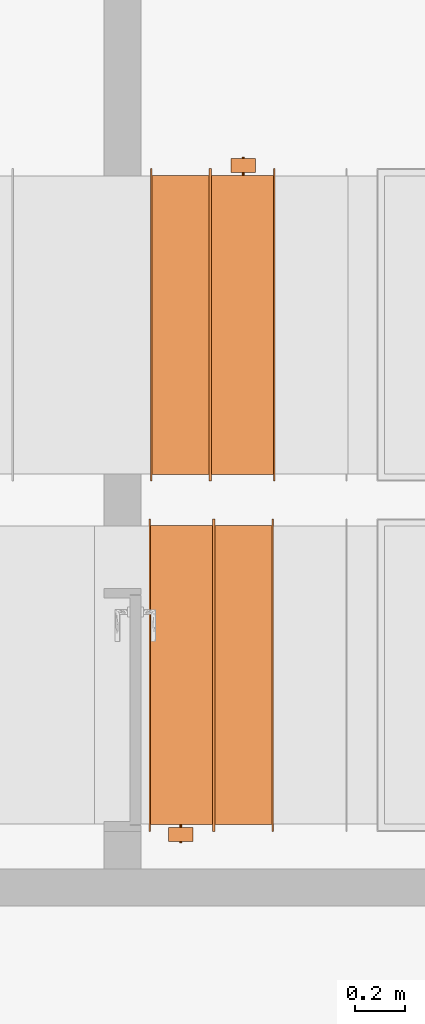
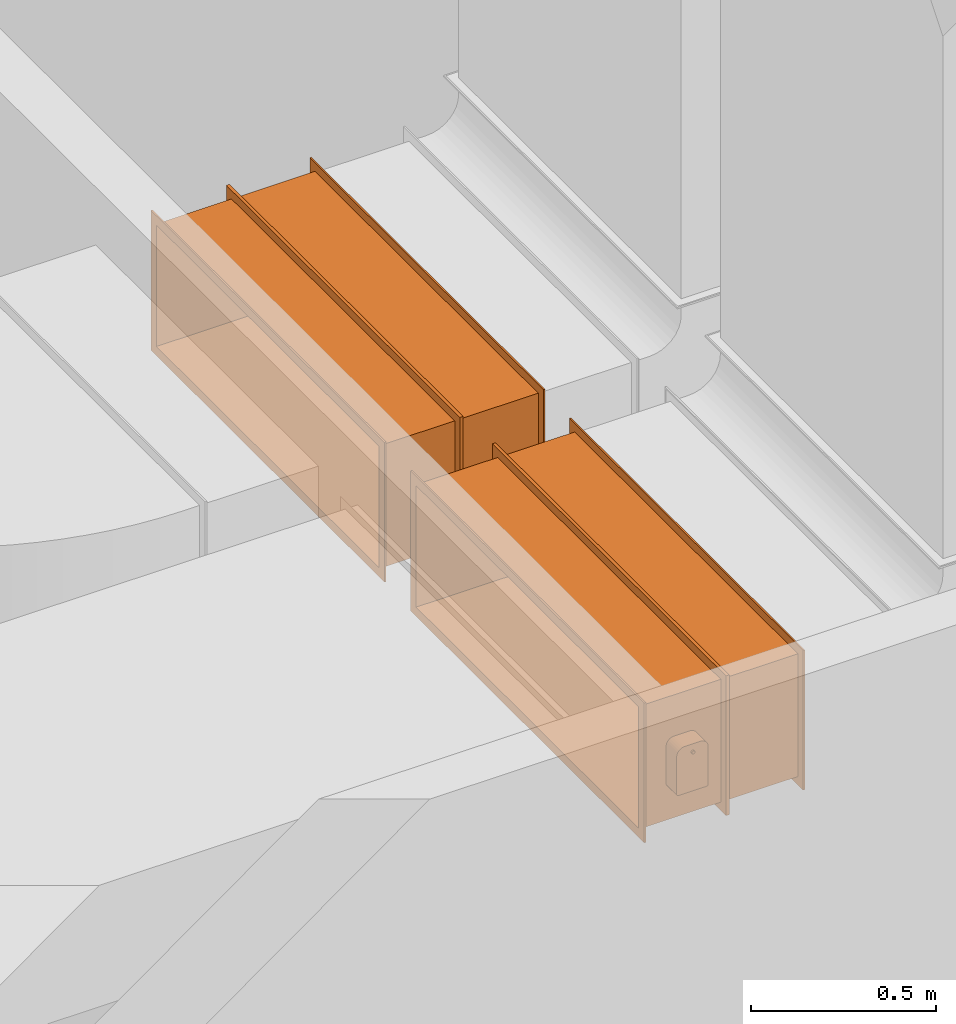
# One storey, part 290 of 302: 2 proxies.
"""IFC2X3 building model written with IfcOpenShell, lengths in metres."""

import ifcopenshell
import ifcopenshell.guid

model = None  # the IFC model being written
_history = None  # IfcOwnerHistory: only IFC2X3 demands one
_inside = {}  # id of a spatial element -> (the spatial element, [elements in it])
_under = {}  # id of a project, library or spatial element -> (it, [spatial elements below it])
_declared = {}  # id of a project -> (the project, [libraries it declares])
_typed = {}  # id of a type object -> (the type object, [elements of that type])
_made_of = {}  # id of a material, layer set ... -> (it, [elements and type objects made of it])


def new_model(schema):
    """Start an empty IFC model of exactly this schema.

    Asked for "IFC4X3", IfcOpenShell would pick the latest addendum, in which some entities
    have other attributes; the version numbers below select the first issue.
    IFC2X3 requires an IfcOwnerHistory on every rooted entity: one is made here for all.
    """
    global model, _history
    if schema == "IFC4X3":
        model = ifcopenshell.file(schema_version=(4, 3, 0, 0))
    else:
        model = ifcopenshell.file(schema=schema)
    _inside.clear()
    _under.clear()
    _declared.clear()
    _typed.clear()
    _made_of.clear()
    _history = None
    if model.schema == "IFC2X3":
        org = make("IfcOrganization", Name="unknown")
        user = make(
            "IfcPersonAndOrganization",
            ThePerson=make("IfcPerson", FamilyName="unknown"),
            TheOrganization=org,
        )
        app = make(
            "IfcApplication",
            ApplicationDeveloper=org,
            Version="unknown",
            ApplicationFullName="unknown",
            ApplicationIdentifier="unknown",
        )
        _history = make(
            "IfcOwnerHistory",
            OwningUser=user,
            OwningApplication=app,
            ChangeAction="ADDED",
            CreationDate=0,
        )
    return model


def make(cls, **values):
    """One entity of the class cls with the attributes given. An attribute that is None is left unset."""
    return model.create_entity(
        cls, **{name: value for name, value in values.items() if value is not None}
    )


def entity(cls, *values):
    """Any entity or typed value of the class cls, its attributes in the order of the schema. None: left unset."""
    e = model.create_entity(cls)
    for i, value in enumerate(values):
        if value is not None:
            e[i] = value
    return e


def rooted(cls, **values):
    """An entity with a GlobalId (a new one), such as an element, a storey or a relation."""
    return make(cls, GlobalId=ifcopenshell.guid.new(), OwnerHistory=_history, **values)


def si_unit(unit_type, name, prefix=None):
    """IfcSIUnit, for example si_unit("LENGTHUNIT", "METRE", prefix="MILLI")."""
    return make("IfcSIUnit", UnitType=unit_type, Prefix=prefix, Name=name)


def converted_unit(unit_type, name, factor, base, dimensions=None, offset=None):
    """IfcConversionBasedUnit, such as the inch: factor (a typed value) times the base unit."""
    return make(
        "IfcConversionBasedUnit"
        if offset is None
        else "IfcConversionBasedUnitWithOffset",
        ConversionOffset=offset,
        Dimensions=None
        if dimensions is None
        else entity("IfcDimensionalExponents", *dimensions),
        UnitType=unit_type,
        Name=name,
        ConversionFactor=make(
            "IfcMeasureWithUnit", ValueComponent=factor, UnitComponent=base
        ),
    )


def derived_unit(unit_type, elements):
    """IfcDerivedUnit: a product of units, each with its exponent."""
    return make(
        "IfcDerivedUnit",
        Elements=[
            make("IfcDerivedUnitElement", Unit=unit, Exponent=power)
            for unit, power in elements
        ],
        UnitType=unit_type,
    )


def assignment(units):
    """IfcUnitAssignment: the units of a project."""
    return None if units is None else make("IfcUnitAssignment", Units=units)


def point(xyz):
    """IfcCartesianPoint."""
    return None if xyz is None else make("IfcCartesianPoint", Coordinates=xyz)


def direction(xyz):
    """IfcDirection."""
    return None if xyz is None else make("IfcDirection", DirectionRatios=xyz)


def frame(location, z_axis=None, x_axis=None):
    """IfcAxis2Placement3D, a coordinate frame: its origin and axes. An axis left out is left unset."""
    return make(
        "IfcAxis2Placement3D",
        Location=point(location),
        Axis=direction(z_axis),
        RefDirection=direction(x_axis),
    )


def origin():
    """The frame at (0, 0, 0) with its axes left unset."""
    return frame((0.0, 0.0, 0.0))


def place(relative_to, where):
    """IfcLocalPlacement: puts the frame where relative to a parent placement (None: the world)."""
    return make(
        "IfcLocalPlacement", PlacementRelTo=relative_to, RelativePlacement=where
    )


def context(
    kind, dimensions, precision=None, world=None, true_north=None, identifier=None
):
    """IfcGeometricRepresentationContext, for example the 3D "Model" context."""
    return make(
        "IfcGeometricRepresentationContext",
        ContextIdentifier=identifier,
        ContextType=kind,
        CoordinateSpaceDimension=dimensions,
        Precision=precision,
        WorldCoordinateSystem=world,
        TrueNorth=true_north,
    )


def subcontext(parent, identifier, kind, view, scale=None):
    """IfcGeometricRepresentationSubContext, for example "Body" below "Model"."""
    return make(
        "IfcGeometricRepresentationSubContext",
        ContextIdentifier=identifier,
        ContextType=kind,
        ParentContext=parent,
        TargetScale=scale,
        TargetView=view,
    )


def project(units=None, contexts=None):
    """IfcProject with its units and contexts."""
    return rooted(
        "IfcProject",
        Name="project",
        RepresentationContexts=contexts,
        UnitsInContext=assignment(units),
    )


def spatial(cls, under=None, at=None, **own):
    """A site, building, storey or space (cls), placed at a placement, below another one or the project."""
    s = rooted(cls, ObjectPlacement=at, **own)
    if under is not None:
        _under.setdefault(under.id(), (under, []))[1].append(s)
    return s


def faces_of(points, faces, orient=None, outer=None):
    """IfcFace entities. A face is a list of loops; a loop is a list of indices into points, from 0.

    orient and outer hold one flag for each loop. By default every Orientation is true, the
    first loop of a face is its IfcFaceOuterBound and the others are IfcFaceBound.
    """
    made = []
    for i, loops in enumerate(faces):
        bounds = []
        for j, loop in enumerate(loops):
            is_outer = j == 0 if outer is None else outer[i][j]
            bounds.append(
                make(
                    "IfcFaceOuterBound" if is_outer else "IfcFaceBound",
                    Bound=make("IfcPolyLoop", Polygon=[points[k] for k in loop]),
                    Orientation=True if orient is None else orient[i][j],
                )
            )
        made.append(make("IfcFace", Bounds=bounds))
    return made


def faceted_brep(points, faces, orient=None, outer=None, voids=None):
    """IfcFacetedBrep: a solid bounded by flat faces; with voids (closed shells), ...WithVoids."""
    shared = [point(p) for p in points]
    hull = make("IfcClosedShell", CfsFaces=faces_of(shared, faces, orient, outer))
    if voids is None:
        return make("IfcFacetedBrep", Outer=hull)
    return make(
        "IfcFacetedBrepWithVoids",
        Outer=hull,
        Voids=[
            make(cls, CfsFaces=faces_of(shared, fs, o, b)) for cls, fs, o, b in voids
        ],
    )


def shape(context_of_items, identifier, shape_type, items):
    """IfcShapeRepresentation: the items that make up one representation, for example the "Body"."""
    return make(
        "IfcShapeRepresentation",
        ContextOfItems=context_of_items,
        RepresentationIdentifier=identifier,
        RepresentationType=shape_type,
        Items=items,
    )


def source(mapping_origin, context_of_items, identifier, shape_type, items):
    """IfcRepresentationMap: a shape defined once, which mapped items show again and again."""
    return make(
        "IfcRepresentationMap",
        MappingOrigin=mapping_origin,
        MappedRepresentation=shape(context_of_items, identifier, shape_type, items),
    )


def transform(
    local_origin,
    x_axis=None,
    y_axis=None,
    z_axis=None,
    scale=None,
    scale2=None,
    scale3=None,
    uniform=True,
):
    """IfcCartesianTransformationOperator3D, or its non-uniform kind. x_axis, y_axis, z_axis: its Axis1, 2, 3."""
    if uniform:
        return make(
            "IfcCartesianTransformationOperator3D",
            Axis1=direction(x_axis),
            Axis2=direction(y_axis),
            LocalOrigin=point(local_origin),
            Scale=scale,
            Axis3=direction(z_axis),
        )
    return make(
        "IfcCartesianTransformationOperator3DnonUniform",
        Axis1=direction(x_axis),
        Axis2=direction(y_axis),
        LocalOrigin=point(local_origin),
        Scale=scale,
        Axis3=direction(z_axis),
        Scale2=scale2,
        Scale3=scale3,
    )


def mapped(mapping_source, mapping_target):
    """IfcMappedItem: shows the shape of a source again, moved by a transform."""
    return make(
        "IfcMappedItem", MappingSource=mapping_source, MappingTarget=mapping_target
    )


def material(Name=None, Category=None):
    """IfcMaterial."""
    return make("IfcMaterial", Name=Name, Category=Category)


def made_of(thing, what):
    """Note that an element or type object is made of a material, layer set ...; save() writes the relation."""
    if what is not None:
        _made_of.setdefault(what.id(), (what, []))[1].append(thing)
    return thing


def type_object(cls, material=None, **own):
    """A type object (cls), such as IfcWallType, which elements share."""
    return made_of(rooted(cls, **own), material)


def type_shapes(of_type, sources):
    """Give a type object the sources (RepresentationMaps) that its elements show as mapped items."""
    of_type.RepresentationMaps = sources


def element(
    cls,
    number,
    at=None,
    inside=None,
    cuts=None,
    type_object=None,
    material=None,
    context=None,
    identifier="Body",
    shape_type=None,
    held_by="IfcProductDefinitionShape",
    body=None,
    shapes=None,
    **own,
):
    """One element of the class cls, such as IfcWall. Its Tag is "e" and its number.

    at: its placement. inside: the storey or other place that contains it. cuts: it is an
    opening in that element (IfcRelVoidsElement). A single representation is given by context,
    identifier, shape_type and body (its items); several are given by shapes. held_by: the class
    of the entity that holds the representations. save() writes the other relations.
    """
    e = rooted(cls, Tag="e%d" % number, ObjectPlacement=at, **own)
    if body is not None:
        shapes = [shape(context, identifier, shape_type, body)]
    if shapes is not None:
        e.Representation = make(held_by, Representations=shapes)
    if inside is not None:
        _inside.setdefault(inside.id(), (inside, []))[1].append(e)
    if cuts is not None:
        rooted(
            "IfcRelVoidsElement", RelatingBuildingElement=cuts, RelatedOpeningElement=e
        )
    if type_object is not None:
        _typed.setdefault(type_object.id(), (type_object, []))[1].append(e)
    return made_of(e, material)


def aggregate(whole, parts):
    """IfcRelAggregates: a whole, such as a stair, and the parts it consists of."""
    return rooted("IfcRelAggregates", RelatingObject=whole, RelatedObjects=parts)


def save(model, path):
    """Write the relations noted so far, then the file.

    IfcRelAggregates (storeys below a building ...), IfcRelContainedInSpatialStructure (elements
    in a storey), IfcRelDefinesByType, IfcRelAssociatesMaterial and IfcRelDeclares: one each for
    every whole, place, type object, material and project.
    """
    for whole, parts in _under.values():
        aggregate(whole, parts)
    for where, things in _inside.values():
        rooted(
            "IfcRelContainedInSpatialStructure",
            RelatedElements=things,
            RelatingStructure=where,
        )
    for kind, things in _typed.values():
        rooted("IfcRelDefinesByType", RelatedObjects=things, RelatingType=kind)
    for what, things in _made_of.values():
        rooted("IfcRelAssociatesMaterial", RelatedObjects=things, RelatingMaterial=what)
    for by, libraries in _declared.values():
        rooted("IfcRelDeclares", RelatingContext=by, RelatedDefinitions=libraries)
    model.write(path)


model = new_model("IFC2X3")

# Units and contexts
model_context = context("Model", 3, precision=1e-05, world=origin(), true_north=direction((6.12303176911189e-17, 1.0)))
body_context = subcontext(model_context, "Body", "Model", "MODEL_VIEW")
ifc_project = project(units=[si_unit("LENGTHUNIT", "METRE"), si_unit("AREAUNIT", "SQUARE_METRE"), si_unit("VOLUMEUNIT", "CUBIC_METRE"), converted_unit("PLANEANGLEUNIT", "DEGREE", entity("IfcRatioMeasure", 0.0174532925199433), si_unit("PLANEANGLEUNIT", "RADIAN"), dimensions=[0, 0, 0, 0, 0, 0, 0]), si_unit("MASSUNIT", "GRAM", prefix="KILO"), derived_unit("MASSDENSITYUNIT", [(si_unit("MASSUNIT", "GRAM", prefix="KILO"), 1), (si_unit("LENGTHUNIT", "METRE"), -3)]), derived_unit("MOMENTOFINERTIAUNIT", [(si_unit("LENGTHUNIT", "METRE"), 4)]), si_unit("TIMEUNIT", "SECOND"), si_unit("FREQUENCYUNIT", "HERTZ"), si_unit("THERMODYNAMICTEMPERATUREUNIT", "DEGREE_CELSIUS"), derived_unit("THERMALTRANSMITTANCEUNIT", [(si_unit("MASSUNIT", "GRAM", prefix="KILO"), 1), (si_unit("THERMODYNAMICTEMPERATUREUNIT", "KELVIN"), -1), (si_unit("TIMEUNIT", "SECOND"), -3)]), derived_unit("VOLUMETRICFLOWRATEUNIT", [(si_unit("LENGTHUNIT", "METRE"), 3), (si_unit("TIMEUNIT", "SECOND"), -1)]), si_unit("ELECTRICCURRENTUNIT", "AMPERE"), si_unit("ELECTRICVOLTAGEUNIT", "VOLT"), si_unit("POWERUNIT", "WATT"), si_unit("FORCEUNIT", "NEWTON", prefix="KILO"), si_unit("ILLUMINANCEUNIT", "LUX"), si_unit("LUMINOUSFLUXUNIT", "LUMEN"), si_unit("LUMINOUSINTENSITYUNIT", "CANDELA"), derived_unit("USERDEFINED", [(si_unit("MASSUNIT", "GRAM", prefix="KILO"), -1), (si_unit("LENGTHUNIT", "METRE"), -2), (si_unit("TIMEUNIT", "SECOND"), 3), (si_unit("LUMINOUSFLUXUNIT", "LUMEN"), 1)]), derived_unit("LINEARVELOCITYUNIT", [(si_unit("LENGTHUNIT", "METRE"), 1), (si_unit("TIMEUNIT", "SECOND"), -1)]), si_unit("PRESSUREUNIT", "PASCAL"), derived_unit("USERDEFINED", [(si_unit("LENGTHUNIT", "METRE"), -2), (si_unit("MASSUNIT", "GRAM", prefix="KILO"), 1), (si_unit("TIMEUNIT", "SECOND"), -2)]), derived_unit("LINEARFORCEUNIT", [(si_unit("MASSUNIT", "GRAM", prefix="KILO"), 1), (si_unit("LENGTHUNIT", "METRE"), 1), (si_unit("TIMEUNIT", "SECOND"), -2), (si_unit("LENGTHUNIT", "METRE"), -1)]), derived_unit("PLANARFORCEUNIT", [(si_unit("MASSUNIT", "GRAM", prefix="KILO"), 1), (si_unit("LENGTHUNIT", "METRE"), 1), (si_unit("TIMEUNIT", "SECOND"), -2), (si_unit("LENGTHUNIT", "METRE"), -2)])], contexts=[model_context])

# Site, building, storey
site_placement = place(None, origin())
site = spatial("IfcSite", under=ifc_project, at=site_placement, Name="Default", CompositionType="ELEMENT")
building_placement = place(site_placement, origin())
building = spatial("IfcBuilding", under=site, at=building_placement, CompositionType="ELEMENT")
storey_placement = place(building_placement, frame((0.0, 0.0, -1.3)))
storey = spatial("IfcBuildingStorey", under=building, at=storey_placement, Name="00_EG", CompositionType="ELEMENT", Elevation=-1.3)

# Proxies
ifc_material = material(Name="<Unnamed>")
building_element_proxy_type = type_object("IfcBuildingElementProxyType", Name="Brandschutzklappe rechteck Flansch:Standard", PredefinedType="NOTDEFINED", material=ifc_material)
shared_shape = source(origin(), body_context, "Body", "Brep", [
    faceted_brep([(-0.123794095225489, -0.600000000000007, 0.0548296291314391), (-0.123794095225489, -0.612499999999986, 0.0548296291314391), (-0.122499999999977, -0.612499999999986, 0.054999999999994), (-0.122499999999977, -0.600000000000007, 0.054999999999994), (-0.122499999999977, -0.669499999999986, 0.0549999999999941), (-0.12379409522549, -0.669499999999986, 0.0548296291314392), (-0.123794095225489, -0.67499999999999, 0.0548296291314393), (-0.122499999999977, -0.67499999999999, 0.0549999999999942), (-0.124999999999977, -0.600000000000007, 0.0543301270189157), (-0.124999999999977, -0.612499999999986, 0.0543301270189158), (-0.124999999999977, -0.669499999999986, 0.0543301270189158), (-0.124999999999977, -0.67499999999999, 0.054330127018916), (-0.126830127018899, -0.612499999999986, 0.0524999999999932), (-0.126035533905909, -0.612499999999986, 0.0535355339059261), (-0.126035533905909, -0.600000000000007, 0.0535355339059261), (-0.126830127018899, -0.600000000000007, 0.0524999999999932), (-0.126035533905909, -0.669499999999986, 0.0535355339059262), (-0.126830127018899, -0.669499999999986, 0.0524999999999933), (-0.126830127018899, -0.67499999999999, 0.0524999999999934), (-0.126035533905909, -0.67499999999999, 0.0535355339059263), (-0.127329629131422, -0.612499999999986, 0.0512940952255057), (-0.127329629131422, -0.600000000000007, 0.0512940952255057), (-0.127329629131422, -0.669499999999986, 0.0512940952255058), (-0.127329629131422, -0.67499999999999, 0.0512940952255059), (-0.127499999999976, -0.612499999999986, 0.0499999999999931), (-0.127499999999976, -0.600000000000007, 0.0499999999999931), (-0.127499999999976, -0.669499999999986, 0.0499999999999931), (-0.127499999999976, -0.67499999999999, 0.0499999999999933), (-0.127329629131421, -0.600000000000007, 0.0487059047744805), (-0.127329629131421, -0.612499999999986, 0.0487059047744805), (-0.127329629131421, -0.669499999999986, 0.0487059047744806), (-0.127329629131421, -0.67499999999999, 0.0487059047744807), (-0.126830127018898, -0.600000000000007, 0.0474999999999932), (-0.126830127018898, -0.612499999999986, 0.0474999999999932), (-0.126830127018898, -0.669499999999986, 0.0474999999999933), (-0.126830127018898, -0.67499999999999, 0.0474999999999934), (-0.124999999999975, -0.612499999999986, 0.0456698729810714), (-0.126035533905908, -0.612499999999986, 0.0464644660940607), (-0.126035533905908, -0.600000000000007, 0.0464644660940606), (-0.124999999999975, -0.600000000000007, 0.0456698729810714), (-0.126035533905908, -0.669499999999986, 0.0464644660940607), (-0.124999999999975, -0.669499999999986, 0.0456698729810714), (-0.124999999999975, -0.67499999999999, 0.0456698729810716), (-0.126035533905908, -0.67499999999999, 0.0464644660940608), (-0.123794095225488, -0.612499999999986, 0.0451703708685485), (-0.123794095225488, -0.600000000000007, 0.0451703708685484), (-0.123794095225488, -0.669499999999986, 0.0451703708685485), (-0.123794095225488, -0.67499999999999, 0.0451703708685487), (-0.122499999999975, -0.612499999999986, 0.0449999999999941), (-0.122499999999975, -0.600000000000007, 0.044999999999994), (-0.122499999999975, -0.669499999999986, 0.0449999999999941), (-0.122499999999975, -0.67499999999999, 0.0449999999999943), (-0.121205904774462, -0.600000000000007, 0.0451703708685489), (-0.121205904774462, -0.612499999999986, 0.045170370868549), (-0.121205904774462, -0.669499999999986, 0.045170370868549), (-0.121205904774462, -0.67499999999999, 0.0451703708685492), (-0.119999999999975, -0.600000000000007, 0.0456698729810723), (-0.119999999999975, -0.612499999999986, 0.0456698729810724), (-0.119999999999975, -0.669499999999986, 0.0456698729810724), (-0.119999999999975, -0.67499999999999, 0.0456698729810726), (-0.118169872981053, -0.612499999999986, 0.0474999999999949), (-0.118964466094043, -0.612499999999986, 0.046464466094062), (-0.118964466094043, -0.600000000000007, 0.046464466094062), (-0.118169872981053, -0.600000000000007, 0.0474999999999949), (-0.118169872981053, -0.67499999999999, 0.0474999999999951), (-0.118964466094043, -0.67499999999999, 0.0464644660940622), (-0.118964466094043, -0.669499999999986, 0.0464644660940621), (-0.118169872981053, -0.669499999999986, 0.047499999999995), (-0.11767037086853, -0.612499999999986, 0.0487059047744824), (-0.11767037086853, -0.600000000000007, 0.0487059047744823), (-0.11767037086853, -0.67499999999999, 0.0487059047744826), (-0.11767037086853, -0.669499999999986, 0.0487059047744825), (-0.117499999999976, -0.612499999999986, 0.049999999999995), (-0.117499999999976, -0.600000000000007, 0.049999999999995), (-0.117499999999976, -0.67499999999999, 0.0499999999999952), (-0.117499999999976, -0.669499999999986, 0.0499999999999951), (-0.117670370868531, -0.600000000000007, 0.0512940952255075), (-0.117670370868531, -0.612499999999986, 0.0512940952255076), (-0.117670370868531, -0.669499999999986, 0.0512940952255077), (-0.117670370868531, -0.67499999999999, 0.0512940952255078), (-0.118169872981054, -0.600000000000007, 0.0524999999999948), (-0.118169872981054, -0.612499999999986, 0.0524999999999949), (-0.118169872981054, -0.669499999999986, 0.052499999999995), (-0.118169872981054, -0.67499999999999, 0.0524999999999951), (-0.119999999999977, -0.612499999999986, 0.0543301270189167), (-0.118964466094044, -0.612499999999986, 0.0535355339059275), (-0.118964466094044, -0.600000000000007, 0.0535355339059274), (-0.119999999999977, -0.600000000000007, 0.0543301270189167), (-0.118964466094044, -0.669499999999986, 0.0535355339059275), (-0.119999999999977, -0.669499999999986, 0.0543301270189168), (-0.119999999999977, -0.67499999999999, 0.0543301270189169), (-0.118964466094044, -0.67499999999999, 0.0535355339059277), (-0.121205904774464, -0.612499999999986, 0.0548296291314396), (-0.121205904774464, -0.600000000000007, 0.0548296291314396), (-0.121205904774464, -0.67499999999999, 0.0548296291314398), (-0.121205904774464, -0.669499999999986, 0.0548296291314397), (-0.0749644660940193, -0.669499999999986, -0.0785355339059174), (-0.0734999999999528, -0.669499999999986, -0.0749999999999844), (-0.0784999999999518, -0.669499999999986, -0.0799999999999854), (-0.16649999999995, -0.669499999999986, -0.0800000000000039), (-0.171499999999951, -0.669499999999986, -0.0750000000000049), (-0.0734999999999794, -0.669499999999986, 0.0500000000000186), (-0.074351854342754, -0.669499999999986, 0.0564704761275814), (-0.0768493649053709, -0.669499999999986, 0.0625000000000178), (-0.0808223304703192, -0.669499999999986, 0.0676776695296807), (-0.0859999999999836, -0.669499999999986, 0.0716506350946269), (-0.092029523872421, -0.669499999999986, 0.0741481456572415), (-0.0984999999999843, -0.669499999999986, 0.0750000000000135), (-0.146499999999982, -0.669499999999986, 0.0750000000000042), (-0.152970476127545, -0.669499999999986, 0.0741481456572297), (-0.158999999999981, -0.669499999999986, 0.0716506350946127), (-0.164177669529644, -0.669499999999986, 0.0676776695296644), (-0.168150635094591, -0.669499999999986, 0.0624999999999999), (-0.170648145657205, -0.669499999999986, 0.0564704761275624), (-0.171499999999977, -0.669499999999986, 0.049999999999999), (-0.170035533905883, -0.669499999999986, -0.0785355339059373), (-0.092029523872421, -0.612499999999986, 0.0741481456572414), (-0.0859999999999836, -0.612499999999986, 0.0716506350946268), (-0.0984999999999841, -0.612499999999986, 0.0750000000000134), (-0.0808223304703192, -0.612499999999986, 0.0676776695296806), (-0.0768493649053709, -0.612499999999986, 0.0625000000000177), (-0.074351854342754, -0.612499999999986, 0.0564704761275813), (-0.0734999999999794, -0.612499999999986, 0.0500000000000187), (-0.0734999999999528, -0.612499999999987, -0.0749999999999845), (-0.171499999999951, -0.612499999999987, -0.075000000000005), (-0.16649999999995, -0.612499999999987, -0.0800000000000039), (-0.0784999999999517, -0.612499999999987, -0.0799999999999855), (-0.0749644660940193, -0.612499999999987, -0.0785355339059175), (-0.170035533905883, -0.612499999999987, -0.0785355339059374), (-0.171499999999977, -0.612499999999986, 0.049999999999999), (-0.170648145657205, -0.612499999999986, 0.0564704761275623), (-0.168150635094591, -0.612499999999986, 0.0624999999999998), (-0.164177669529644, -0.612499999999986, 0.0676776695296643), (-0.158999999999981, -0.612499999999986, 0.0716506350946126), (-0.152970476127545, -0.612499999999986, 0.0741481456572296), (-0.146499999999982, -0.612499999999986, 0.0750000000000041), (-0.171499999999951, -0.630461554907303, -0.075000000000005), (-0.16649999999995, -0.651538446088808, -0.0800000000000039), (-0.0784999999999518, -0.630461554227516, -0.0799999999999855), (-0.0734999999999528, -0.630461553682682, -0.0749999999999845), (-0.170174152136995, -0.641000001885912, -0.0783912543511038), (-0.0751087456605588, -0.641000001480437, -0.0786741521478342)], [[[0, 1, 2, 3]], [[4, 5, 6, 7]], [[8, 9, 1, 0]], [[5, 10, 11, 6]], [[12, 13, 14, 15]], [[16, 17, 18, 19]], [[8, 14, 13, 9]], [[10, 16, 19, 11]], [[20, 12, 15, 21]], [[17, 22, 23, 18]], [[24, 20, 21, 25]], [[22, 26, 27, 23]], [[28, 29, 24, 25]], [[30, 31, 27, 26]], [[32, 33, 29, 28]], [[30, 34, 35, 31]], [[36, 37, 38, 39]], [[40, 41, 42, 43]], [[32, 38, 37, 33]], [[34, 40, 43, 35]], [[44, 36, 39, 45]], [[41, 46, 47, 42]], [[48, 44, 45, 49]], [[46, 50, 51, 47]], [[52, 53, 48, 49]], [[54, 55, 51, 50]], [[56, 57, 53, 52]], [[58, 59, 55, 54]], [[60, 61, 62, 63]], [[64, 65, 66, 67]], [[56, 62, 61, 57]], [[58, 66, 65, 59]], [[68, 60, 63, 69]], [[70, 64, 67, 71]], [[72, 68, 69, 73]], [[74, 70, 71, 75]], [[76, 77, 72, 73]], [[78, 79, 74, 75]], [[80, 81, 77, 76]], [[82, 83, 79, 78]], [[84, 85, 86, 87]], [[88, 89, 90, 91]], [[80, 86, 85, 81]], [[88, 91, 83, 82]], [[92, 84, 87, 93]], [[94, 90, 89, 95]], [[2, 92, 93, 3]], [[7, 94, 95, 4]], [[96, 97, 98]], [[98, 97, 99]], [[99, 97, 100]], [[100, 97, 50]], [[50, 97, 54]], [[54, 97, 58]], [[97, 101, 58]], [[101, 66, 58]], [[67, 66, 101]], [[71, 67, 101]], [[101, 75, 71]], [[102, 75, 101]], [[75, 102, 103]], [[75, 103, 104]], [[105, 75, 104]], [[78, 75, 105]], [[78, 105, 106]], [[106, 107, 78]], [[82, 78, 107]], [[88, 82, 107]], [[88, 107, 89]], [[95, 89, 107]], [[4, 95, 107]], [[4, 107, 108]], [[5, 4, 108]], [[10, 5, 108]], [[10, 108, 16]], [[17, 16, 108]], [[22, 17, 108]], [[108, 109, 22]], [[22, 109, 110]], [[22, 110, 26]], [[110, 111, 26]], [[111, 112, 26]], [[113, 26, 112]], [[113, 114, 26]], [[30, 26, 114]], [[30, 114, 34]], [[40, 34, 114]], [[41, 40, 114]], [[41, 114, 100]], [[50, 46, 100]], [[99, 100, 115]], [[46, 41, 100]], [[116, 117, 77]], [[116, 77, 118]], [[72, 77, 117]], [[72, 117, 119]], [[120, 72, 119]], [[72, 120, 121]], [[72, 121, 122]], [[72, 122, 68]], [[60, 68, 122]], [[122, 61, 60]], [[61, 122, 57]], [[57, 122, 123]], [[53, 57, 123]], [[53, 123, 48]], [[124, 48, 123]], [[123, 125, 124]], [[123, 126, 125]], [[123, 127, 126]], [[124, 125, 128]], [[44, 48, 124]], [[36, 44, 124]], [[36, 124, 129]], [[37, 36, 129]], [[33, 37, 129]], [[129, 29, 33]], [[129, 24, 29]], [[129, 130, 24]], [[130, 131, 24]], [[24, 131, 132]], [[132, 133, 24]], [[133, 20, 24]], [[20, 133, 134]], [[20, 134, 135]], [[118, 2, 135]], [[135, 12, 20]], [[12, 135, 13]], [[13, 135, 9]], [[9, 135, 1]], [[135, 2, 1]], [[81, 118, 77]], [[81, 85, 118]], [[85, 84, 118]], [[92, 118, 84]], [[2, 118, 92]], [[100, 114, 129, 124, 136]], [[99, 137, 125, 126, 138, 98]], [[101, 97, 139, 123, 122]], [[109, 134, 133, 110]], [[110, 133, 132, 111]], [[135, 134, 109, 108]], [[112, 131, 130, 113]], [[113, 130, 129, 114]], [[111, 132, 131, 112]], [[128, 136, 124]], [[140, 137, 115]], [[136, 128, 140]], [[125, 137, 140]], [[100, 136, 140]], [[100, 140, 115]], [[137, 99, 115]], [[140, 128, 125]], [[127, 138, 126]], [[98, 138, 141]], [[139, 127, 123]], [[127, 141, 138]], [[98, 141, 96]], [[96, 141, 97]], [[139, 141, 127]], [[97, 141, 139]], [[102, 121, 120, 103]], [[103, 120, 119, 104]], [[122, 121, 102, 101]], [[105, 117, 116, 106]], [[106, 116, 118, 107]], [[104, 119, 117, 105]], [[35, 43, 42, 47, 51, 55, 59, 65, 64, 70, 74, 79, 83, 91, 90, 94, 7, 6, 11, 19, 18, 23, 27, 31]], [[69, 63, 62, 56, 52, 49, 45, 39, 38, 32, 28, 25, 21, 15, 14, 8, 0, 3, 93, 87, 86, 80, 76, 73]], [[108, 107, 118, 135]]]),
    faceted_brep([(0.245000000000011, -0.630000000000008, 0.229999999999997), (0.245000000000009, 0.629999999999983, 0.229999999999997), (0.245000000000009, 0.629999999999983, -0.230000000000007), (0.245000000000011, -0.630000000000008, -0.230000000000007), (0.245000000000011, -0.600000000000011, 0.199999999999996), (0.245000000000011, -0.600000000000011, -0.200000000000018), (0.245000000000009, 0.599999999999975, -0.200000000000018), (0.245000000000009, 0.599999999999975, 0.199999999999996), (0.250000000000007, -0.630000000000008, 0.229999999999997), (0.250000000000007, -0.630000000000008, -0.230000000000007), (0.250000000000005, 0.629999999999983, -0.230000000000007), (0.250000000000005, 0.629999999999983, 0.229999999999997), (0.250000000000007, -0.600000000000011, 0.199999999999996), (0.250000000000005, 0.599999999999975, 0.199999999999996), (0.250000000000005, 0.599999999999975, -0.200000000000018), (0.250000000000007, -0.600000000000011, -0.200000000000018)], [[[0, 1, 2, 3], [4, 5, 6, 7]], [[8, 9, 10, 11], [12, 13, 14, 15]], [[0, 3, 9, 8]], [[3, 2, 10, 9]], [[2, 1, 11, 10]], [[1, 0, 8, 11]], [[5, 4, 12, 15]], [[6, 5, 15, 14]], [[7, 6, 14, 13]], [[4, 7, 13, 12]]]),
    faceted_brep([(-0.244999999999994, -0.630000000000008, 0.229999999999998), (-0.244999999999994, -0.630000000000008, -0.230000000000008), (-0.244999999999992, 0.629999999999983, -0.230000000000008), (-0.244999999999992, 0.629999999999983, 0.229999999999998), (-0.244999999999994, -0.600000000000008, 0.199999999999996), (-0.244999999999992, 0.599999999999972, 0.199999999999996), (-0.244999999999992, 0.599999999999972, -0.200000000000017), (-0.244999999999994, -0.600000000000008, -0.200000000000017), (-0.249999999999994, -0.630000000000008, 0.229999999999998), (-0.249999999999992, 0.629999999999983, 0.229999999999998), (-0.249999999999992, 0.629999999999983, -0.230000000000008), (-0.249999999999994, -0.630000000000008, -0.230000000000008), (-0.249999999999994, -0.600000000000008, 0.199999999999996), (-0.249999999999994, -0.600000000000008, -0.200000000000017), (-0.249999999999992, 0.599999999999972, -0.200000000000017), (-0.249999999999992, 0.599999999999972, 0.199999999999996)], [[[0, 1, 2, 3], [4, 5, 6, 7]], [[8, 9, 10, 11], [12, 13, 14, 15]], [[1, 0, 8, 11]], [[2, 1, 11, 10]], [[3, 2, 10, 9]], [[0, 3, 9, 8]], [[5, 4, 12, 15]], [[6, 5, 15, 14]], [[7, 6, 14, 13]], [[4, 7, 13, 12]]]),
    faceted_brep([(0.010000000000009, 0.62999999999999, 0.229999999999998), (0.010000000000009, -0.630000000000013, 0.229999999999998), (0.0150000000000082, -0.630000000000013, 0.229999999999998), (0.0150000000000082, 0.62999999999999, 0.229999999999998), (0.010000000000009, 0.62999999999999, -0.230000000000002), (0.0150000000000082, 0.62999999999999, -0.230000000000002), (0.0150000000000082, -0.630000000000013, -0.230000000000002), (0.010000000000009, -0.630000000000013, -0.230000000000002), (0.010000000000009, -0.599999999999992, 0.199999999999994), (0.010000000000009, -0.599999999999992, -0.200000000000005), (0.010000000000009, 0.599999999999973, -0.200000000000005), (0.010000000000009, 0.599999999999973, 0.199999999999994), (0.0150000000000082, -0.599999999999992, -0.200000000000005), (0.0150000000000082, -0.599999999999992, 0.199999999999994), (0.0150000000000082, 0.599999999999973, 0.199999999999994), (0.0150000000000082, 0.599999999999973, -0.200000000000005)], [[[0, 1, 2, 3]], [[4, 5, 6, 7]], [[1, 0, 4, 7], [8, 9, 10, 11]], [[2, 1, 7, 6]], [[3, 2, 6, 5], [12, 13, 14, 15]], [[0, 3, 5, 4]], [[8, 13, 12, 9]], [[9, 12, 15, 10]], [[10, 15, 14, 11]], [[13, 8, 11, 14]]]),
    faceted_brep([(0.010000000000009, 0.62999999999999, 0.229999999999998), (0.00500000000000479, 0.62999999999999, 0.229999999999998), (0.00500000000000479, -0.630000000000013, 0.229999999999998), (0.010000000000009, -0.630000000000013, 0.229999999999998), (0.010000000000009, 0.62999999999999, -0.230000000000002), (0.010000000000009, -0.630000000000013, -0.230000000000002), (0.00500000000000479, -0.630000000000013, -0.230000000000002), (0.00500000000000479, 0.62999999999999, -0.230000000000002), (0.00500000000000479, -0.599999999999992, 0.199999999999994), (0.00500000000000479, -0.599999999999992, -0.200000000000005), (0.00500000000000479, 0.599999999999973, -0.200000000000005), (0.00500000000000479, 0.599999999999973, 0.199999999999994), (0.010000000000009, -0.599999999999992, -0.200000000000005), (0.010000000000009, -0.599999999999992, 0.199999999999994), (0.010000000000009, 0.599999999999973, 0.199999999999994), (0.010000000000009, 0.599999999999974, -0.200000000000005)], [[[0, 1, 2, 3]], [[4, 5, 6, 7]], [[1, 0, 4, 7]], [[2, 1, 7, 6], [8, 9, 10, 11]], [[3, 2, 6, 5]], [[0, 3, 5, 4], [12, 13, 14, 15]], [[8, 13, 12, 9]], [[9, 12, 15, 10]], [[10, 15, 14, 11]], [[13, 8, 11, 14]]]),
    faceted_brep([(0.250000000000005, -0.600000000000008, 0.199999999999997), (0.250000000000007, 0.599999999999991, 0.199999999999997), (0.250000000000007, 0.599999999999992, -0.200000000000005), (0.250000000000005, -0.600000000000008, -0.200000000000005), (0.250000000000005, -0.602000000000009, 0.201999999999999), (0.250000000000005, -0.60200000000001, -0.202000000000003), (0.250000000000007, 0.601999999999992, -0.202000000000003), (0.250000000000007, 0.601999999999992, 0.201999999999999), (-0.249999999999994, -0.600000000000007, 0.199999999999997), (-0.249999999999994, -0.600000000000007, -0.200000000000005), (-0.249999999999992, 0.599999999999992, -0.200000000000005), (-0.249999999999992, 0.599999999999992, 0.199999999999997), (-0.249999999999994, -0.602000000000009, 0.201999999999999), (-0.249999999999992, 0.601999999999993, 0.201999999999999), (-0.249999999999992, 0.601999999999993, -0.202000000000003), (-0.249999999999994, -0.602000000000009, -0.202000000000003), (0.0150000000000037, -0.600000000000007, -0.200000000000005), (0.0, -0.600000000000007, -0.200000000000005), (0.0, -0.600000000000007, 0.199999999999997), (0.0150000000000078, -0.600000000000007, 0.199999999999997), (0.0150000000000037, 0.599999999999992, -0.200000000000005), (0.0, 0.599999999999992, -0.200000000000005), (0.0150000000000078, 0.599999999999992, 0.199999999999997), (0.0, 0.599999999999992, 0.199999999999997)], [[[0, 1, 2, 3], [4, 5, 6, 7]], [[8, 9, 10, 11], [12, 13, 14, 15]], [[0, 3, 16, 17, 9, 8, 18, 19]], [[3, 2, 20, 21, 10, 9, 17, 16]], [[2, 1, 22, 23, 11, 10, 21, 20]], [[1, 0, 19, 18, 8, 11, 23, 22]], [[5, 4, 12, 15]], [[6, 5, 15, 14]], [[7, 6, 14, 13]], [[4, 7, 13, 12]]], outer=[[False, True], [False, True], [True], [True], [True], [True], [True], [True], [True], [True]]),
])
type_shapes(building_element_proxy_type, [shared_shape])
proxy_1_placement = place(storey_placement, frame((-209.127807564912, 19.8229929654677, 4.91)))
element("IfcBuildingElementProxy", 1, at=proxy_1_placement, inside=storey, type_object=building_element_proxy_type, material=ifc_material, Name="Brandschutzklappe rechteck Flansch:Standard", ObjectType="Brandschutzklappe rechteck Flansch:Standard", context=body_context, shape_type="MappedRepresentation", body=[
    mapped(shared_shape, transform((0.0, 0.0, 0.0), scale=1.0)),
])
proxy_2_placement = place(storey_placement, frame((-209.121606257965, 21.234021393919, 4.91), z_axis=(0.0, 0.0, 1.0), x_axis=(-1.0, 0.0, 0.0)))
element("IfcBuildingElementProxy", 2, at=proxy_2_placement, inside=storey, type_object=building_element_proxy_type, material=ifc_material, Name="Brandschutzklappe rechteck Flansch:Standard", ObjectType="Brandschutzklappe rechteck Flansch:Standard", context=body_context, shape_type="MappedRepresentation", body=[
    mapped(shared_shape, transform((0.0, 0.0, 0.0), scale=1.0)),
])

save(model, "model.ifc")
